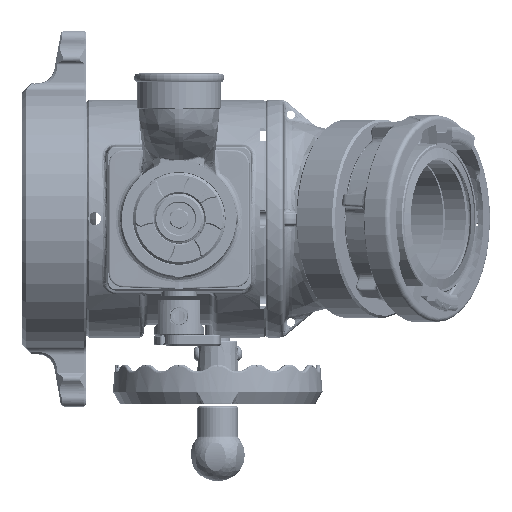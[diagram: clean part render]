
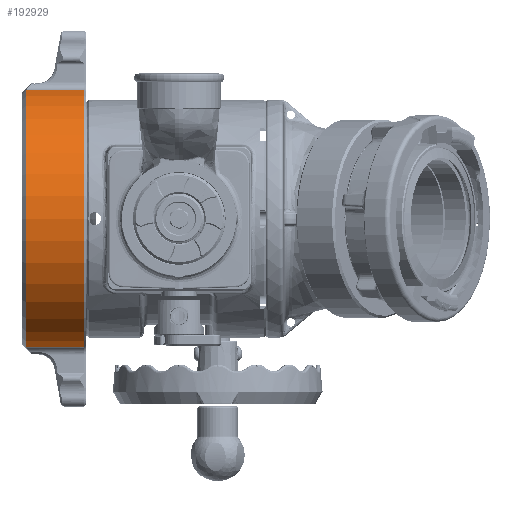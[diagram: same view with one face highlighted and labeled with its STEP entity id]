
A CAD part, front view. The second image highlights one B-rep face of the part: STEP entity #192929.
In plain terms, the highlighted cylindrical face has radius 98.425 mm (diameter 196.85 mm), a partial arc.
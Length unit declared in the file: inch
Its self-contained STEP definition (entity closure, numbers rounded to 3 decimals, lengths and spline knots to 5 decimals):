
#8301 = VERTEX_POINT ( 'NONE', #264599 ) ;
#12861 = CARTESIAN_POINT ( 'NONE',  ( -4.538, -0.68106, -3.81468 ) ) ;
#16021 = FACE_OUTER_BOUND ( 'NONE', #243892, .T. ) ;
#16318 = DIRECTION ( 'NONE',  ( 1., 0., 0. ) ) ;
#26981 = VERTEX_POINT ( 'NONE', #79581 ) ;
#28338 = LINE ( 'NONE', #258985, #96620 ) ;
#31182 = VERTEX_POINT ( 'NONE', #12861 ) ;
#32746 = EDGE_CURVE ( 'NONE', #26981, #193094, #28338, .T. ) ;
#33762 = CARTESIAN_POINT ( 'NONE',  ( -4.713, 0., 0. ) ) ;
#46005 = ORIENTED_EDGE ( 'NONE', *, *, #251692, .T. ) ;
#78026 = AXIS2_PLACEMENT_3D ( 'NONE', #33762, #274538, #187067 ) ;
#78773 = DIRECTION ( 'NONE',  ( 0., 0., 1. ) ) ;
#79581 = CARTESIAN_POINT ( 'NONE',  ( -4.538, -0.68106, 3.81468 ) ) ;
#84650 = DIRECTION ( 'NONE',  ( 0., 1., 0. ) ) ;
#84871 = CARTESIAN_POINT ( 'NONE',  ( -4.713, -0.68106, -3.81468 ) ) ;
#84895 = ORIENTED_EDGE ( 'NONE', *, *, #268143, .T. ) ;
#96620 = VECTOR ( 'NONE', #16318, 39.37008 ) ;
#99028 = VECTOR ( 'NONE', #147772, 39.37008 ) ;
#104725 = DIRECTION ( 'NONE',  ( -1., 0., 0. ) ) ;
#109761 = ORIENTED_EDGE ( 'NONE', *, *, #183991, .F. ) ;
#113927 = CIRCLE ( 'NONE', #200177, 3.875 ) ;
#124887 = CIRCLE ( 'NONE', #183036, 3.875 ) ;
#147141 = EDGE_CURVE ( 'NONE', #31182, #276106, #202611, .T. ) ;
#147772 = DIRECTION ( 'NONE',  ( 1., 0., 0. ) ) ;
#151112 = ORIENTED_EDGE ( 'NONE', *, *, #147141, .F. ) ;
#161230 = ORIENTED_EDGE ( 'NONE', *, *, #32746, .F. ) ;
#169367 = CYLINDRICAL_SURFACE ( 'NONE', #78026, 3.875 ) ;
#174633 = AXIS2_PLACEMENT_3D ( 'NONE', #236019, #104725, #84650 ) ;
#183036 = AXIS2_PLACEMENT_3D ( 'NONE', #211796, #233638, #273654 ) ;
#183991 = EDGE_CURVE ( 'NONE', #276106, #26981, #124887, .T. ) ;
#187067 = DIRECTION ( 'NONE',  ( 0., 0., -1. ) ) ;
#192929 = ADVANCED_FACE ( 'NONE', ( #16021 ), #169367, .T. ) ;
#193094 = VERTEX_POINT ( 'NONE', #201242 ) ;
#194532 = LINE ( 'NONE', #84871, #99028 ) ;
#200177 = AXIS2_PLACEMENT_3D ( 'NONE', #233624, #206429, #78773 ) ;
#201242 = CARTESIAN_POINT ( 'NONE',  ( -2.8125, -0.68106, 3.81468 ) ) ;
#202611 = CIRCLE ( 'NONE', #174633, 3.875 ) ;
#206429 = DIRECTION ( 'NONE',  ( -1., 0., 0. ) ) ;
#211796 = CARTESIAN_POINT ( 'NONE',  ( -4.538, 0., 0. ) ) ;
#221242 = CARTESIAN_POINT ( 'NONE',  ( -4.538, -3.875, 0. ) ) ;
#233624 = CARTESIAN_POINT ( 'NONE',  ( -2.8125, 0., 0. ) ) ;
#233638 = DIRECTION ( 'NONE',  ( -1., 0., 0. ) ) ;
#236019 = CARTESIAN_POINT ( 'NONE',  ( -4.538, 0., 0. ) ) ;
#243892 = EDGE_LOOP ( 'NONE', ( #46005, #84895, #161230, #109761, #151112 ) ) ;
#251692 = EDGE_CURVE ( 'NONE', #31182, #8301, #194532, .T. ) ;
#258985 = CARTESIAN_POINT ( 'NONE',  ( -4.713, -0.68106, 3.81468 ) ) ;
#264599 = CARTESIAN_POINT ( 'NONE',  ( -2.8125, -0.68106, -3.81468 ) ) ;
#268143 = EDGE_CURVE ( 'NONE', #8301, #193094, #113927, .T. ) ;
#273654 = DIRECTION ( 'NONE',  ( 0., 1., 0. ) ) ;
#274538 = DIRECTION ( 'NONE',  ( 1., 0., 0. ) ) ;
#276106 = VERTEX_POINT ( 'NONE', #221242 ) ;
